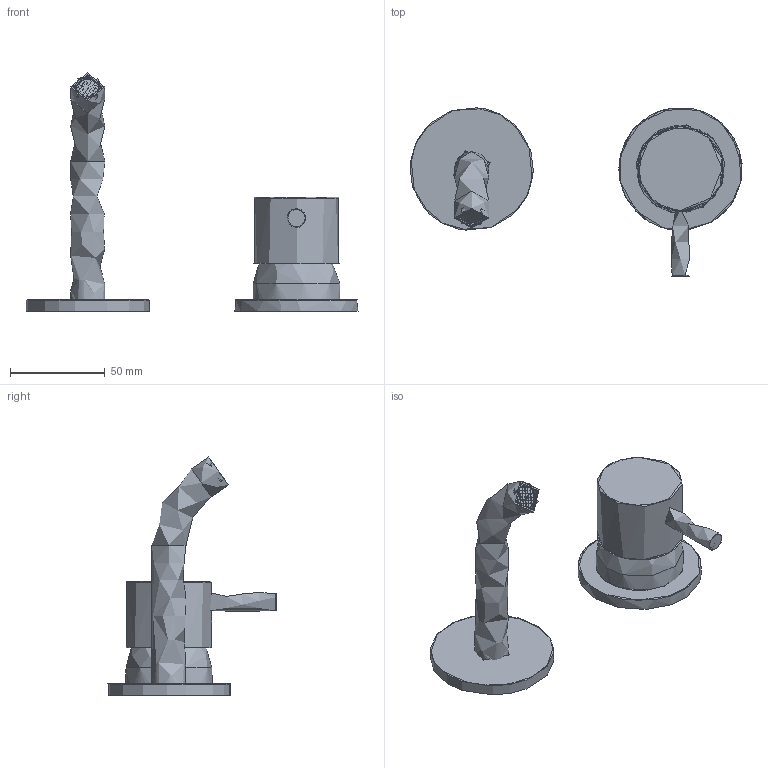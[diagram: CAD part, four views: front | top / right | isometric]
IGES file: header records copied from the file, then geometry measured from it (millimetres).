
Global section: file name: PR52AH201; native system: Autodesk Inventor 2017; preprocessor: unknown; author: PIZZERA; date: 20210408.143114; units: millimetre
Bounding box: 174.87 x 88.69 x 125.37 mm (x, y, z)
Volume: 158573.2 mm3; surface area: 33491.6 mm2
Topology: 2 solids, 2 shells, 674 faces, 1678 edges, 1012 vertices
Faces by surface type: bspline 674
